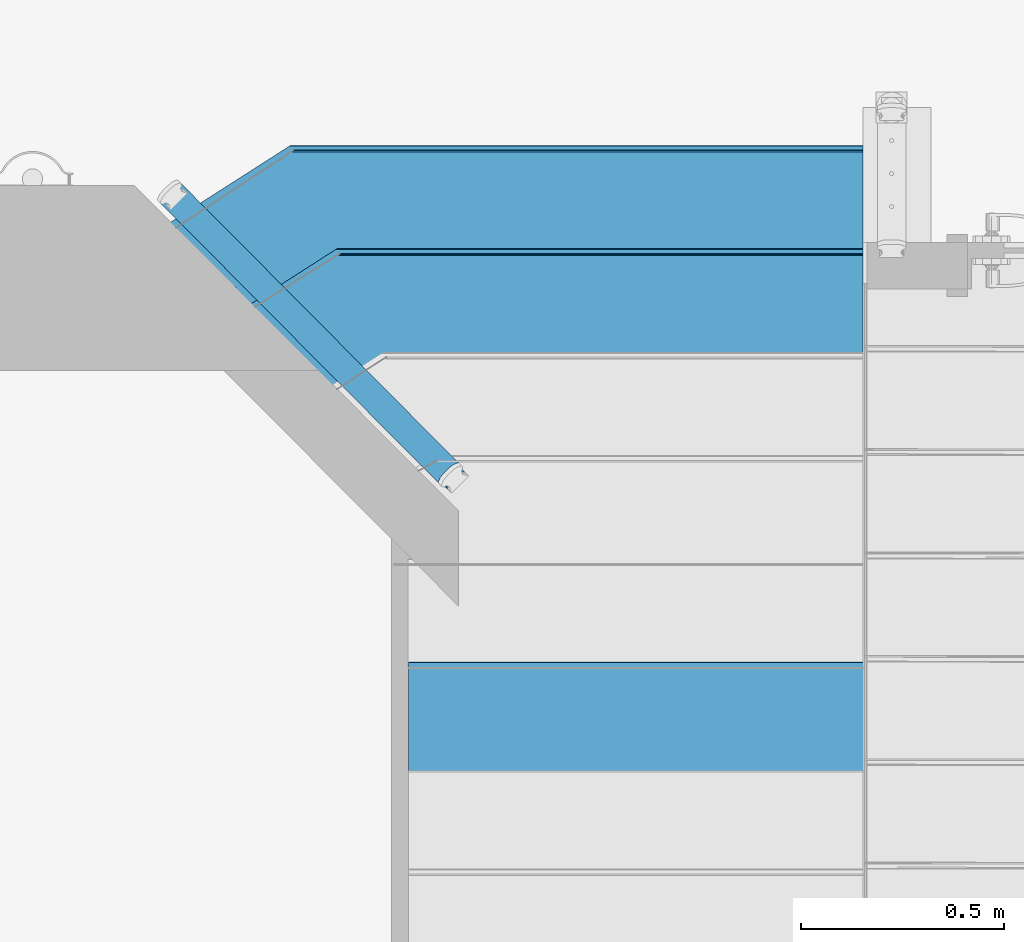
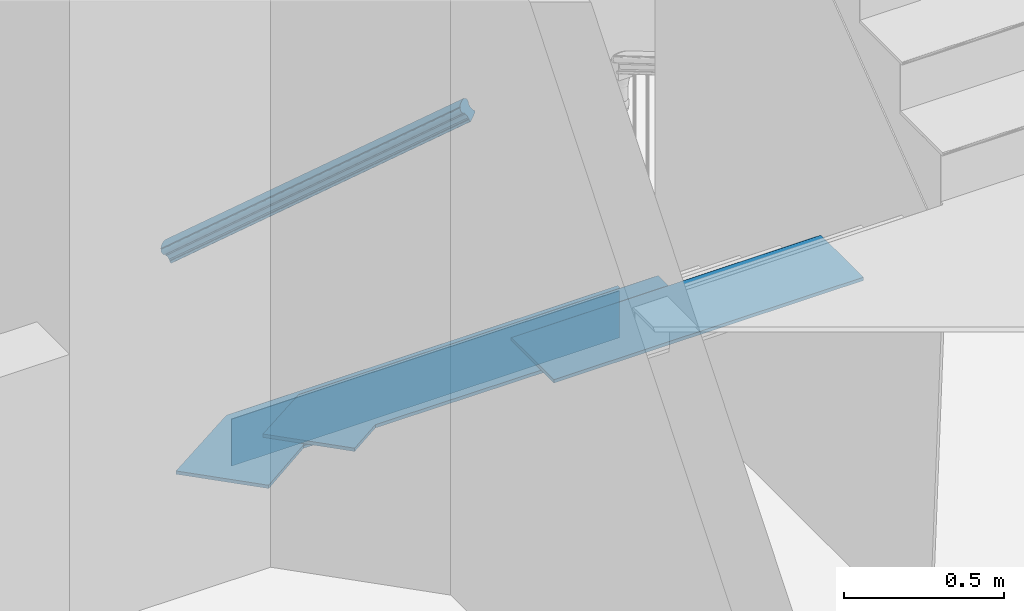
# One storey, part 4 of 24: 6 building element parts, 2 elements without a shape of their own.
"""IFC2X3 building model written with IfcOpenShell, lengths in inches."""

from ifc_helpers import new_model, entity, si_unit, converted_unit, derived_unit, money_unit, direction, frame, origin_with_axes, place, context, subcontext, project, spatial, faceted_brep, material, type_object, element, aggregate, save


model = new_model("IFC2X3")

# Units and contexts
model_context = context("Model", 3, precision=0.000393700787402, world=origin_with_axes(), true_north=direction((0.0, 1.0)))
body_context = subcontext(model_context, "Body", "Model", "MODEL_VIEW")
ifc_project = project(units=[converted_unit("LENGTHUNIT", "INCH", entity("IfcPositiveLengthMeasure", 0.0254), si_unit("LENGTHUNIT", "METRE"), dimensions=[1, 0, 0, 0, 0, 0, 0]), converted_unit("AREAUNIT", "SQUARE_FOOT", entity("IfcPositiveLengthMeasure", 0.09290304), si_unit("AREAUNIT", "SQUARE_METRE"), dimensions=[2, 0, 0, 0, 0, 0, 0]), si_unit("PLANEANGLEUNIT", "RADIAN"), si_unit("SOLIDANGLEUNIT", "STERADIAN"), money_unit("USD"), converted_unit("TIMEUNIT", "Year", entity("IfcTimeMeasure", 31556926.0), si_unit("TIMEUNIT", "SECOND"), dimensions=[0, 0, 1, 0, 0, 0, 0]), si_unit("MASSUNIT", "GRAM", prefix="KILO"), si_unit("THERMODYNAMICTEMPERATUREUNIT", "DEGREE_CELSIUS"), si_unit("LUMINOUSINTENSITYUNIT", "LUMEN"), si_unit("ENERGYUNIT", "JOULE", prefix="MEGA"), derived_unit("THERMALCONDUCTANCEUNIT", [(si_unit("POWERUNIT", "WATT"), 1), (si_unit("LENGTHUNIT", "METRE"), -1), (si_unit("THERMODYNAMICTEMPERATUREUNIT", "KELVIN"), -1)]), derived_unit("SPECIFICHEATCAPACITYUNIT", [(si_unit("ENERGYUNIT", "JOULE"), 1), (si_unit("MASSUNIT", "GRAM", prefix="KILO"), -1), (si_unit("THERMODYNAMICTEMPERATUREUNIT", "KELVIN"), -1)]), derived_unit("MASSDENSITYUNIT", [(si_unit("MASSUNIT", "GRAM", prefix="KILO"), 1), (si_unit("VOLUMEUNIT", "CUBIC_METRE"), -1)])], contexts=[model_context])

# Site, building, storey
site_placement = place(None, origin_with_axes())
site = spatial("IfcSite", under=ifc_project, at=site_placement, Name="Site", CompositionType="ELEMENT")
building_placement = place(site_placement, origin_with_axes())
building = spatial("IfcBuilding", under=site, at=building_placement, Name="Building", CompositionType="ELEMENT")
storey_placement = place(building_placement, origin_with_axes())
storey = spatial("IfcBuildingStorey", under=building, at=storey_placement, Name="First Floor", CompositionType="ELEMENT", Elevation=0.0)

# Railing, building element part
railing_type = type_object("IfcRailingType", Name="Railing Type", PredefinedType="NOTDEFINED")
railing_placement = place(storey_placement, frame((643.989643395, 118.830878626, 0.0), z_axis=(0.0, 0.0, 1.0), x_axis=(-1.0, 0.0, 0.0)))
railing = element("IfcRailing", 1, at=railing_placement, inside=storey, type_object=railing_type, Name="RAILING - 001", PredefinedType="NOTDEFINED")
ifc_material_1 = material(Name="Wood - Structural")
building_element_part_1_placement = place(railing_placement, origin_with_axes())
building_element_part_1 = element("IfcBuildingElementPart", 2, at=building_element_part_1_placement, material=ifc_material_1, Name="Wood - Structural", context=body_context, shape_type="Brep", body=[
    faceted_brep([(0.438267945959, -4.62211825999, 68.1992433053), (0.386797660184, -4.5702895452, 68.1007156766), (27.2835203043, -31.6543157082, 39.8029447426), (27.3349905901, -31.706144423, 39.9014723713), (0.485789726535, -4.58688248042, 68.2106877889), (0.777262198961, -4.3555732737, 68.2663412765), (1.05728768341, -4.106669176, 68.2942743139), (1.32373501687, -3.8420644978, 68.2942743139), (1.57457637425, -3.56377304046, 68.2663412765), (1.80790270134, -3.27391277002, 68.2106877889), (1.84346741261, -3.22663665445, 68.1992433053), (1.79199712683, -3.17480793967, 68.1007156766), (1.81514124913, -3.1505181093, 68.0994659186), (1.85681900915, -3.09874201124, 68.0895248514), (1.89131419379, -3.04402784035, 68.0699447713), (1.91757868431, -2.98803805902, 68.0413206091), (1.93481444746, -2.93247388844, 68.0045220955), (1.9424977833, -2.8790236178, 67.9606673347), (1.94039523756, -2.82931130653, 67.9110888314), (1.92857069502, -2.78484743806, 67.8572930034), (1.90738343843, -2.74698302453, 67.8009144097), (1.87747723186, -2.71686855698, 67.7436660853), (1.83976076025, -2.69541904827, 67.6872874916), (1.79538001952, -2.68328623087, 67.6334916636), (1.74568349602, -2.68083875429, 67.5839131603), (1.69218119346, -2.68815098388, 67.5400583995), (1.63649875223, -2.70500074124, 67.5032598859), (1.58032805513, -2.73087605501, 67.4746357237), (1.52537582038, -2.76499071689, 67.4550556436), (1.47331174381, -2.80630817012, 67.4451145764), (1.44886188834, -2.82928317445, 67.4438648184), (1.36307807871, -2.74290198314, 67.2796521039), (1.33386229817, -2.74552263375, 67.2543910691), (1.27489661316, -2.74261866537, 67.1955654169), (1.22223818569, -2.72822289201, 67.1317358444), (1.17748701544, -2.70277272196, 67.0648417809), (1.14200284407, -2.66704144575, 66.9969157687), (1.11686384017, -2.62211474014, 66.9300217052), (1.10283383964, -2.56935768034, 66.8661921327), (1.10033913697, -2.51037326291, 66.8073664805), (1.10316246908, -2.48117637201, 66.7821054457), (1.01737865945, -2.3947951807, 66.6178927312), (1.0289507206, -2.38265026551, 66.6172678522), (1.04978960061, -2.35676221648, 66.6122973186), (1.06703719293, -2.32940513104, 66.6025072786), (1.08016943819, -2.30141024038, 66.5881951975), (1.08878731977, -2.27362815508, 66.5697959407), (1.09262898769, -2.24690301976, 66.5478685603), (1.09157771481, -2.22204686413, 66.5230793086), (1.08566544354, -2.1998149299, 66.4961813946), (1.07507181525, -2.18088272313, 66.4679920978), (1.06011871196, -2.16582548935, 66.4393679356), (1.04126047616, -2.155100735, 66.4111786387), (1.0190701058, -2.1490343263, 66.3842807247), (0.994221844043, -2.14781058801, 66.3594914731), (0.967470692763, -2.15146670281, 66.3375640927), (0.939629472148, -2.15989158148, 66.3191648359), (0.9115441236, -2.17282923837, 66.3048527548), (0.884068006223, -2.18988656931, 66.2950627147), (0.858035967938, -2.21054529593, 66.2900921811), (0.845811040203, -2.22203279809, 66.2894673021), (-0.559388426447, -3.61751440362, 66.2894673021), (-0.570960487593, -3.62965931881, 66.2900921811), (-0.591799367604, -3.65554736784, 66.2950627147), (-0.609046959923, -3.68290445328, 66.3048527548), (-0.622179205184, -3.71089934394, 66.3191648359), (-0.63079708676, -3.73868142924, 66.3375640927), (-0.63463875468, -3.76540656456, 66.3594914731), (-0.633587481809, -3.79026272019, 66.3842807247), (-0.62767521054, -3.81249465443, 66.4111786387), (-0.617081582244, -3.83142686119, 66.4393679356), (-0.602128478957, -3.84648409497, 66.4679920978), (-0.583270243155, -3.85720884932, 66.4961813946), (-0.561079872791, -3.86327525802, 66.5230793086), (-0.536231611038, -3.86449899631, 66.5478685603), (-0.509480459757, -3.86084288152, 66.5697959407), (-0.481639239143, -3.85241800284, 66.5881951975), (-0.453553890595, -3.83948034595, 66.6025072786), (-0.426077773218, -3.82242301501, 66.6122973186), (-0.400045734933, -3.80176428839, 66.6172678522), (-0.387820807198, -3.79027678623, 66.6178927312), (-0.302036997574, -3.87665797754, 66.7821054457), (-0.272821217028, -3.87403732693, 66.8073664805), (-0.213855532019, -3.87694129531, 66.8661921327), (-0.161197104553, -3.89133706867, 66.9300217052), (-0.116445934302, -3.91678723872, 66.9969157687), (-0.0809617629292, -3.95251851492, 67.0648417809), (-0.0558227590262, -3.99744522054, 67.1317358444), (-0.0417927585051, -4.05020228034, 67.1955654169), (-0.0392980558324, -4.10918669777, 67.2543910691), (-0.0421213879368, -4.13838358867, 67.2796521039), (0.0436624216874, -4.22476477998, 67.4438648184), (0.0205182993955, -4.24905461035, 67.4451145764), (-0.0211594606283, -4.30083070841, 67.4550556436), (-0.0556546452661, -4.3555448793, 67.4746357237), (-0.0819191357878, -4.41153466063, 67.5032598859), (-0.0991548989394, -4.46709883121, 67.5400583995), (-0.10683823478, -4.52054910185, 67.5839131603), (-0.104735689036, -4.57026141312, 67.6334916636), (-0.0929111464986, -4.61472528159, 67.6872874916), (-0.0717238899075, -4.65258969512, 67.7436660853), (-0.0418176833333, -4.68270416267, 67.8009144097), (-0.0041012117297, -4.70415367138, 67.8572930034), (0.0402795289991, -4.71628648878, 67.9110888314), (0.089976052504, -4.71873396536, 67.9606673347), (0.143478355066, -4.71142173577, 68.0045220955), (0.199160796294, -4.69457197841, 68.0413206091), (0.25533149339, -4.66869666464, 68.0699447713), (0.310283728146, -4.63458200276, 68.0895248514), (0.362347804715, -4.59326454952, 68.0994659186), (27.2590704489, -31.6772907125, 39.8016949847), (27.2070063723, -31.7186081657, 39.7917539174), (27.1520541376, -31.7527228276, 39.7721738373), (27.0958834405, -31.7785981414, 39.7435496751), (27.0402009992, -31.7954478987, 39.7067511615), (26.9866986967, -31.8027601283, 39.6628964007), (26.9370021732, -31.8003126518, 39.6133178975), (26.8926214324, -31.7881798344, 39.5595220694), (26.8549049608, -31.7667303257, 39.5031434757), (26.8249987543, -31.7366158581, 39.4458951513), (26.8038114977, -31.6987514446, 39.3895165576), (26.7919869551, -31.6542875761, 39.3357207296), (26.7898844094, -31.6045752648, 39.2861422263), (26.7975677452, -31.5511249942, 39.2422874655), (26.8148035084, -31.4955608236, 39.2054889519), (26.8410679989, -31.4395710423, 39.1768647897), (26.8755631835, -31.3848568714, 39.1572847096), (26.9172409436, -31.3330807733, 39.1473436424), (26.9403850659, -31.308790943, 39.1460938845), (26.8546012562, -31.2224097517, 38.9818811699), (26.8574245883, -31.1932128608, 38.9566201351), (26.8549298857, -31.1342284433, 38.8977944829), (26.8408998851, -31.0814713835, 38.8339649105), (26.8157608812, -31.0365446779, 38.767070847), (26.7802767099, -31.0008134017, 38.6991448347), (26.7355255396, -30.9753632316, 38.6322507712), (26.6828671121, -30.9609674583, 38.5684211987), (26.6239014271, -30.9580634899, 38.5095955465), (26.5946856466, -30.9606841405, 38.4843345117), (26.508901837, -30.8743029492, 38.3201217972), (26.4966769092, -30.8857904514, 38.3194969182), (26.4706448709, -30.906449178, 38.3145263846), (26.4431687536, -30.9235065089, 38.3047363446), (26.415083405, -30.9364441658, 38.2904242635), (26.3872421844, -30.9448690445, 38.2720250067), (26.3604910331, -30.9485251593, 38.2500976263), (26.3356427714, -30.947301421, 38.2253083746), (26.313452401, -30.9412350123, 38.1984104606), (26.2945941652, -30.9305102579, 38.1702211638), (26.2796410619, -30.9154530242, 38.1415970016), (26.2690474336, -30.8965208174, 38.1134077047), (26.2631351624, -30.8742888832, 38.0865097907), (26.2620838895, -30.8494327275, 38.0617205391), (26.2659255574, -30.8227075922, 38.0397931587), (26.274543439, -30.7949255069, 38.0213939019), (26.2876756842, -30.7669306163, 38.0070818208), (26.3049232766, -30.7395735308, 37.9972917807), (26.3257621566, -30.7136854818, 37.9923212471), (26.3373342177, -30.7015405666, 37.9916963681), (27.7425336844, -29.3060589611, 37.9916963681), (27.7547586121, -29.2945714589, 37.9923212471), (27.7807906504, -29.2739127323, 37.9972917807), (27.8082667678, -29.2568554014, 38.0070818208), (27.8363521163, -29.2439177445, 38.0213939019), (27.8641933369, -29.2354928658, 38.0397931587), (27.8909444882, -29.231836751, 38.0617205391), (27.91579275, -29.2330604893, 38.0865097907), (27.9379831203, -29.239126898, 38.1134077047), (27.9568413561, -29.2498516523, 38.1415970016), (27.9717944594, -29.2649088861, 38.1702211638), (27.9823880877, -29.2838410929, 38.1984104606), (27.988300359, -29.3060730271, 38.2253083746), (27.9893516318, -29.3309291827, 38.2500976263), (27.9855099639, -29.3576543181, 38.2720250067), (27.9768920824, -29.3854364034, 38.2904242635), (27.9637598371, -29.413431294, 38.3047363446), (27.9465122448, -29.4407883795, 38.3145263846), (27.9256733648, -29.4666764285, 38.3194969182), (27.9141013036, -29.4788213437, 38.3201217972), (27.9998851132, -29.565202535, 38.4843345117), (27.9970617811, -29.5943994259, 38.5095955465), (27.9995564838, -29.6533838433, 38.5684211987), (28.0135864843, -29.7061409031, 38.6322507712), (28.0387254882, -29.7510676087, 38.6991448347), (28.0742096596, -29.7867988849, 38.767070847), (28.1189608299, -29.812249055, 38.8339649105), (28.1716192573, -29.8266448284, 38.8977944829), (28.2305849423, -29.8295487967, 38.9566201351), (28.2598007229, -29.8269281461, 38.9818811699), (28.3455845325, -29.9133093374, 39.1460938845), (28.370034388, -29.8903343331, 39.1473436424), (28.4220984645, -29.8490168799, 39.1572847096), (28.4770506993, -29.814902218, 39.1768647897), (28.5332213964, -29.7890269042, 39.2054889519), (28.5889038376, -29.7721771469, 39.2422874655), (28.6424061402, -29.7648649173, 39.2861422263), (28.6921026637, -29.7673123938, 39.3357207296), (28.7364834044, -29.7794452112, 39.3895165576), (28.774199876, -29.80089472, 39.4458951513), (28.8041060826, -29.8310091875, 39.5031434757), (28.8252933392, -29.868873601, 39.5595220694), (28.8371178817, -29.9133374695, 39.6133178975), (28.8392204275, -29.9630497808, 39.6628964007), (28.8315370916, -30.0165000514, 39.7067511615), (28.8143013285, -30.072064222, 39.7435496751), (28.788036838, -30.1280540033, 39.7721738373), (28.7535416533, -30.1827681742, 39.7917539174), (28.7118638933, -30.2345442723, 39.8016949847), (28.688719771, -30.2588341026, 39.8029447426), (28.7401900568, -30.3106628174, 39.9014723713), (28.7046253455, -30.357938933, 39.9129168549), (28.4712990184, -30.6477992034, 39.9685703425), (28.220457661, -30.9260906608, 39.9965033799), (27.9540103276, -31.190695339, 39.9965033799), (27.6739848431, -31.4395994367, 39.9685703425), (27.3825123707, -31.6709086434, 39.9129168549)], [[[0, 1, 2, 3]], [[0, 4, 5, 6, 7, 8, 9, 10, 11, 12, 13, 14, 15, 16, 17, 18, 19, 20, 21, 22, 23, 24, 25, 26, 27, 28, 29, 30, 31, 32, 33, 34, 35, 36, 37, 38, 39, 40, 41, 42, 43, 44, 45, 46, 47, 48, 49, 50, 51, 52, 53, 54, 55, 56, 57, 58, 59, 60, 61, 62, 63, 64, 65, 66, 67, 68, 69, 70, 71, 72, 73, 74, 75, 76, 77, 78, 79, 80, 81, 82, 83, 84, 85, 86, 87, 88, 89, 90, 91, 92, 93, 94, 95, 96, 97, 98, 99, 100, 101, 102, 103, 104, 105, 106, 107, 108, 109, 1]], [[1, 109, 110, 2]], [[3, 2, 110, 111, 112, 113, 114, 115, 116, 117, 118, 119, 120, 121, 122, 123, 124, 125, 126, 127, 128, 129, 130, 131, 132, 133, 134, 135, 136, 137, 138, 139, 140, 141, 142, 143, 144, 145, 146, 147, 148, 149, 150, 151, 152, 153, 154, 155, 156, 157, 158, 159, 160, 161, 162, 163, 164, 165, 166, 167, 168, 169, 170, 171, 172, 173, 174, 175, 176, 177, 178, 179, 180, 181, 182, 183, 184, 185, 186, 187, 188, 189, 190, 191, 192, 193, 194, 195, 196, 197, 198, 199, 200, 201, 202, 203, 204, 205, 206, 207, 208, 209, 210, 211, 212, 213, 214, 215]], [[4, 0, 3, 215]], [[5, 4, 215, 214]], [[6, 5, 214, 213]], [[7, 6, 213, 212]], [[8, 7, 212, 211]], [[9, 8, 211, 210]], [[10, 9, 210, 209]], [[11, 10, 209, 208]], [[12, 11, 208, 207]], [[13, 12, 207, 206]], [[14, 13, 206, 205]], [[15, 14, 205, 204]], [[16, 15, 204, 203]], [[17, 16, 203, 202]], [[18, 17, 202, 201]], [[19, 18, 201, 200]], [[20, 19, 200, 199]], [[21, 20, 199, 198]], [[22, 21, 198, 197]], [[23, 22, 197, 196]], [[24, 23, 196, 195]], [[25, 24, 195, 194]], [[26, 25, 194, 193]], [[27, 26, 193, 192]], [[28, 27, 192, 191]], [[29, 28, 191, 190]], [[30, 29, 190, 189]], [[31, 30, 189, 188]], [[32, 31, 188, 187]], [[33, 32, 187, 186]], [[34, 33, 186, 185]], [[35, 34, 185, 184]], [[36, 35, 184, 183]], [[37, 36, 183, 182]], [[38, 37, 182, 181]], [[39, 38, 181, 180]], [[40, 39, 180, 179]], [[41, 40, 179, 178]], [[42, 41, 178, 177]], [[43, 42, 177, 176]], [[44, 43, 176, 175]], [[45, 44, 175, 174]], [[46, 45, 174, 173]], [[47, 46, 173, 172]], [[48, 47, 172, 171]], [[49, 48, 171, 170]], [[50, 49, 170, 169]], [[51, 50, 169, 168]], [[52, 51, 168, 167]], [[53, 52, 167, 166]], [[54, 53, 166, 165]], [[55, 54, 165, 164]], [[56, 55, 164, 163]], [[57, 56, 163, 162]], [[58, 57, 162, 161]], [[59, 58, 161, 160]], [[60, 59, 160, 159]], [[61, 60, 159, 158]], [[62, 61, 158, 157]], [[63, 62, 157, 156]], [[64, 63, 156, 155]], [[65, 64, 155, 154]], [[66, 65, 154, 153]], [[67, 66, 153, 152]], [[68, 67, 152, 151]], [[69, 68, 151, 150]], [[70, 69, 150, 149]], [[71, 70, 149, 148]], [[72, 71, 148, 147]], [[73, 72, 147, 146]], [[74, 73, 146, 145]], [[75, 74, 145, 144]], [[76, 75, 144, 143]], [[77, 76, 143, 142]], [[78, 77, 142, 141]], [[79, 78, 141, 140]], [[80, 79, 140, 139]], [[81, 80, 139, 138]], [[82, 81, 138, 137]], [[83, 82, 137, 136]], [[84, 83, 136, 135]], [[85, 84, 135, 134]], [[86, 85, 134, 133]], [[87, 86, 133, 132]], [[88, 87, 132, 131]], [[89, 88, 131, 130]], [[90, 89, 130, 129]], [[91, 90, 129, 128]], [[92, 91, 128, 127]], [[93, 92, 127, 126]], [[94, 93, 126, 125]], [[95, 94, 125, 124]], [[96, 95, 124, 123]], [[97, 96, 123, 122]], [[98, 97, 122, 121]], [[99, 98, 121, 120]], [[100, 99, 120, 119]], [[101, 100, 119, 118]], [[102, 101, 118, 117]], [[103, 102, 117, 116]], [[104, 103, 116, 115]], [[105, 104, 115, 114]], [[106, 105, 114, 113]], [[107, 106, 113, 112]], [[108, 107, 112, 111]], [[109, 108, 111, 110]]]),
])
aggregate(railing, [building_element_part_1])

# Stair, building element parts
stair_placement = place(storey_placement, frame((683.15053629, 154.289481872, 0.0), z_axis=(0.0, 0.0, 1.0), x_axis=(1.0, 0.0, 0.0)))
stair = element("IfcStair", 3, at=stair_placement, inside=storey, Name="STAIR-30", ShapeType="NOTDEFINED")
ifc_material_2 = material(Name="Timber - Floor")
building_element_part_2_placement = place(stair_placement, origin_with_axes())
building_element_part_2 = element("IfcBuildingElementPart", 4, at=building_element_part_2_placement, material=ifc_material_2, Name="Timber - Floor", context=body_context, shape_type="Brep", body=[
    faceted_brep([(-55.1893580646, -0.5, 7.07874015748), (-55.1893580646, -0.625, 7.07874015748), (-0.0472440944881, -0.625, 7.07874015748), (-0.0472440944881, -0.5, 7.07874015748), (-55.1893580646, -0.5, 0.0), (-55.1893580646, -0.625, 0.0), (-0.0472440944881, -0.625, 0.0), (-0.0472440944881, -0.5, 0.0)], [[[0, 1, 2, 3]], [[0, 4, 5, 1]], [[1, 5, 6, 2]], [[3, 2, 6, 7]], [[4, 0, 3, 7]], [[5, 4, 7, 6]]]),
])
building_element_part_3_placement = place(stair_placement, origin_with_axes())
building_element_part_3 = element("IfcBuildingElementPart", 5, at=building_element_part_3_placement, material=ifc_material_2, Name="Timber - Floor", context=body_context, shape_type="Brep", body=[
    faceted_brep([(-50.7029196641, -10.5, 14.657480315), (-50.7029196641, -10.625, 14.657480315), (-0.0472440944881, -10.625, 14.657480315), (-0.0472440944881, -10.5, 14.657480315), (-50.7029196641, -10.5, 7.57874015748), (-50.7029196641, -10.625, 7.57874015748), (-0.0472440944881, -10.625, 7.57874015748), (-0.0472440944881, -10.5, 7.57874015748)], [[[0, 1, 2, 3]], [[0, 4, 5, 1]], [[1, 5, 6, 2]], [[3, 2, 6, 7]], [[4, 0, 3, 7]], [[5, 4, 7, 6]]]),
])
building_element_part_4_placement = place(stair_placement, origin_with_axes())
building_element_part_4 = element("IfcBuildingElementPart", 6, at=building_element_part_4_placement, material=ifc_material_2, Name="Timber - Floor", context=body_context, shape_type="Brep", body=[
    faceted_brep([(-58.6896946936, -15.8244185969, 7.57874015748), (-67.0377000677, -7.44317492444, 7.57874015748), (-67.0377000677, -7.44317492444, 7.07874015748), (-58.6896946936, -15.8244185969, 7.07874015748), (-50.7029196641, -10.5, 7.57874015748), (-0.0472440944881, -10.625, 7.57874015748), (-0.0472440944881, -0.25, 7.57874015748), (-55.8041053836, -0.250000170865, 7.57874015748), (-55.7363087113, -0.206588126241, 7.08253821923), (-55.8041053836, -0.250000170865, 7.07874015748), (-55.7363087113, -0.206588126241, 7.57494209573), (-55.6705720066, -0.164495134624, 7.56366331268), (-55.608892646, -0.125000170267, 7.54524650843), (-55.5531447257, -0.0893032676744, 7.52025126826), (-55.5050221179, -0.0584890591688, 7.4894370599), (-55.4659870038, -0.0334938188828, 7.45374015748), (-55.4372254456, -0.0150770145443, 7.41424519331), (-55.4196113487, -0.00379823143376, 7.3721522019), (-55.4136799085, -1.69668636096e-07, 7.32874015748), (-55.4196113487, -0.00379823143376, 7.28532811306), (-55.4372254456, -0.0150770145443, 7.24323512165), (-55.4659870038, -0.0334938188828, 7.20374015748), (-55.5050221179, -0.0584890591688, 7.16804325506), (-55.5531447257, -0.0893032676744, 7.1372290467), (-55.608892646, -0.125000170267, 7.11223380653), (-55.6705720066, -0.164495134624, 7.09381700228), (-0.0472440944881, -0.25, 7.07874015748), (-0.0472440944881, -10.625, 7.07874015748), (-50.7029196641, -10.5, 7.07874015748), (-0.0472440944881, -0.206587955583, 7.08253821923), (-0.0472440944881, -0.164494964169, 7.09381700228), (-0.0472440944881, -0.125, 7.11223380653), (-0.0472440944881, -0.0893030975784, 7.1372290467), (-0.0472440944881, -0.0584888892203, 7.16804325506), (-0.0472440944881, -0.0334936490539, 7.20374015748), (-0.0472440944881, -0.0150768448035, 7.24323512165), (-0.0472440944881, -0.00379806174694, 7.28532811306), (-0.0472440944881, 0.0, 7.32874015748), (-0.0472440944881, -0.00379806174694, 7.3721522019), (-0.0472440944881, -0.0150768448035, 7.41424519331), (-0.0472440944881, -0.0334936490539, 7.45374015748), (-0.0472440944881, -0.0584888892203, 7.4894370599), (-0.0472440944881, -0.0893030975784, 7.52025126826), (-0.0472440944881, -0.125, 7.54524650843), (-0.0472440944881, -0.164494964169, 7.56366331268), (-0.0472440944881, -0.206587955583, 7.57494209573)], [[[0, 1, 2, 3]], [[1, 0, 4, 5, 6, 7]], [[8, 9, 2, 1, 7, 10, 11, 12, 13, 14, 15, 16, 17, 18, 19, 20, 21, 22, 23, 24, 25]], [[9, 26, 27, 28, 3, 2]], [[4, 0, 3, 28]], [[5, 4, 28, 27]], [[6, 5, 27, 26, 29, 30, 31, 32, 33, 34, 35, 36, 37, 38, 39, 40, 41, 42, 43, 44, 45]], [[10, 7, 6, 45]], [[9, 8, 29, 26]], [[11, 10, 45, 44]], [[12, 11, 44, 43]], [[13, 12, 43, 42]], [[14, 13, 42, 41]], [[15, 14, 41, 40]], [[16, 15, 40, 39]], [[17, 16, 39, 38]], [[18, 17, 38, 37]], [[19, 18, 37, 36]], [[20, 19, 36, 35]], [[21, 20, 35, 34]], [[22, 21, 34, 33]], [[23, 22, 33, 32]], [[24, 23, 32, 31]], [[25, 24, 31, 30]], [[8, 25, 30, 29]]]),
])
building_element_part_5_placement = place(stair_placement, origin_with_axes())
building_element_part_5 = element("IfcBuildingElementPart", 7, at=building_element_part_5_placement, material=ifc_material_2, Name="Timber - Floor", context=body_context, shape_type="Brep", body=[
    faceted_brep([(-50.9619082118, -23.5953965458, 15.157480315), (-59.2048332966, -15.3067515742, 15.157480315), (-59.2048332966, -15.3067515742, 14.657480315), (-50.9619082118, -23.5953965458, 14.657480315), (-46.2164812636, -20.5, 15.157480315), (-0.0472440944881, -20.625, 15.157480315), (-0.0472440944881, -10.25, 15.157480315), (-51.3171975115, -10.2499993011, 15.157480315), (-51.2494824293, -10.2065872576, 14.6612783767), (-51.3171975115, -10.2499993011, 14.657480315), (-51.2494824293, -10.2065872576, 15.1536822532), (-51.1838248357, -10.1644942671, 15.1424034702), (-51.1222197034, -10.1249993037, 15.1239866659), (-51.0665388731, -10.0893024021, 15.0989914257), (-51.0184741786, -10.0584881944, 15.0681772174), (-50.9794860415, -10.0334929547, 15.032480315), (-50.9507590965, -10.0150761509, 14.9929853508), (-50.9331661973, -10.003797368, 14.9508923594), (-50.9272418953, -9.99999930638, 14.907480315), (-50.9331661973, -10.003797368, 14.8640682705), (-50.9507590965, -10.0150761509, 14.8219752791), (-50.9794860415, -10.0334929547, 14.782480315), (-51.0184741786, -10.0584881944, 14.7467834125), (-51.0665388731, -10.0893024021, 14.7159692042), (-51.1222197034, -10.1249993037, 14.690973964), (-51.1838248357, -10.1644942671, 14.6725571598), (-0.0472440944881, -10.25, 14.657480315), (-0.0472440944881, -20.625, 14.657480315), (-46.2164812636, -20.5, 14.657480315), (-0.0472440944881, -10.2065879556, 14.6612783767), (-0.0472440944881, -10.1644949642, 14.6725571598), (-0.0472440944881, -10.125, 14.690973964), (-0.0472440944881, -10.0893030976, 14.7159692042), (-0.0472440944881, -10.0584888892, 14.7467834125), (-0.0472440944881, -10.0334936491, 14.782480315), (-0.0472440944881, -10.0150768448, 14.8219752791), (-0.0472440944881, -10.0037980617, 14.8640682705), (-0.0472440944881, -10.0, 14.907480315), (-0.0472440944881, -10.0037980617, 14.9508923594), (-0.0472440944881, -10.0150768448, 14.9929853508), (-0.0472440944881, -10.0334936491, 15.032480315), (-0.0472440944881, -10.0584888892, 15.0681772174), (-0.0472440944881, -10.0893030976, 15.0989914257), (-0.0472440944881, -10.125, 15.1239866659), (-0.0472440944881, -10.1644949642, 15.1424034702), (-0.0472440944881, -10.2065879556, 15.1536822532)], [[[0, 1, 2, 3]], [[1, 0, 4, 5, 6, 7]], [[8, 9, 2, 1, 7, 10, 11, 12, 13, 14, 15, 16, 17, 18, 19, 20, 21, 22, 23, 24, 25]], [[9, 26, 27, 28, 3, 2]], [[4, 0, 3, 28]], [[5, 4, 28, 27]], [[6, 5, 27, 26, 29, 30, 31, 32, 33, 34, 35, 36, 37, 38, 39, 40, 41, 42, 43, 44, 45]], [[10, 7, 6, 45]], [[9, 8, 29, 26]], [[11, 10, 45, 44]], [[12, 11, 44, 43]], [[13, 12, 43, 42]], [[14, 13, 42, 41]], [[15, 14, 41, 40]], [[16, 15, 40, 39]], [[17, 16, 39, 38]], [[18, 17, 38, 37]], [[19, 18, 37, 36]], [[20, 19, 36, 35]], [[21, 20, 35, 34]], [[22, 21, 34, 33]], [[23, 22, 33, 32]], [[24, 23, 32, 31]], [[25, 24, 31, 30]], [[8, 25, 30, 29]]]),
])
building_element_part_6_placement = place(stair_placement, origin_with_axes())
building_element_part_6 = element("IfcBuildingElementPart", 8, at=building_element_part_6_placement, material=ifc_material_2, Name="Timber - Floor", context=body_context, shape_type="Brep", body=[
    faceted_brep([(0.0, -50.0150768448, 45.136935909), (0.0, -50.0334936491, 45.0974409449), (-44.0018798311, -50.0334936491, 45.0974409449), (-44.0018798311, -50.0150768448, 45.136935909), (0.0, -50.0037980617, 45.1790289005), (0.0, -50.0, 45.2224409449), (0.0, -50.0037980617, 45.2658529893), (0.0, -50.0150768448, 45.3079459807), (0.0, -50.0334936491, 45.3474409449), (0.0, -50.0584888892, 45.3831378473), (0.0, -50.0893030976, 45.4139520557), (0.0, -50.125, 45.4389472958), (0.0, -50.1644949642, 45.4573641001), (0.0, -50.2065879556, 45.4686428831), (0.0, -50.25, 45.4724409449), (0.0, -60.625, 45.4724409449), (0.0, -60.625, 44.9724409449), (0.0, -50.25, 44.9724409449), (0.0, -50.2065879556, 44.9762390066), (0.0, -50.1644949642, 44.9875177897), (0.0, -50.125, 45.0059345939), (0.0, -50.0893030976, 45.0309298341), (0.0, -50.0584888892, 45.0617440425), (-44.0018798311, -50.0584888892, 45.0617440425), (-44.0018798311, -50.0037980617, 45.1790289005), (-44.0018798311, -50.0893030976, 45.0309298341), (-44.0018798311, -50.125, 45.0059345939), (-44.0018798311, -50.1644949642, 44.9875177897), (-44.0018798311, -50.2065879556, 44.9762390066), (-44.0018798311, -50.25, 44.9724409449), (-44.0022792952, -60.625, 44.9724409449), (-44.0022792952, -60.625, 45.4724409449), (-44.0018798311, -50.25, 45.4724409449), (-44.0018798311, -50.2065879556, 45.4686428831), (-44.0018798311, -50.1644949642, 45.4573641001), (-44.0018798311, -50.125, 45.4389472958), (-44.0018798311, -50.0893030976, 45.4139520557), (-44.0018798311, -50.0584888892, 45.3831378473), (-44.0018798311, -50.0334936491, 45.3474409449), (-44.0018798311, -50.0150768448, 45.3079459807), (-44.0018798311, -50.0037980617, 45.2658529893), (-44.0018798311, -50.0, 45.2224409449)], [[[0, 1, 2, 3]], [[1, 0, 4, 5, 6, 7, 8, 9, 10, 11, 12, 13, 14, 15, 16, 17, 18, 19, 20, 21, 22]], [[1, 22, 23, 2]], [[24, 3, 2, 23, 25, 26, 27, 28, 29, 30, 31, 32, 33, 34, 35, 36, 37, 38, 39, 40, 41]], [[4, 0, 3, 24]], [[5, 4, 24, 41]], [[6, 5, 41, 40]], [[7, 6, 40, 39]], [[8, 7, 39, 38]], [[9, 8, 38, 37]], [[10, 9, 37, 36]], [[11, 10, 36, 35]], [[12, 11, 35, 34]], [[12, 34, 33, 13]], [[14, 13, 33, 32]], [[15, 14, 32, 31]], [[16, 15, 31, 30]], [[17, 16, 30, 29]], [[18, 17, 29, 28]], [[19, 18, 28, 27]], [[20, 19, 27, 26]], [[21, 20, 26, 25]], [[22, 21, 25, 23]]]),
])
aggregate(stair, [building_element_part_2, building_element_part_3, building_element_part_4, building_element_part_5, building_element_part_6])

save(model, "model.ifc")
